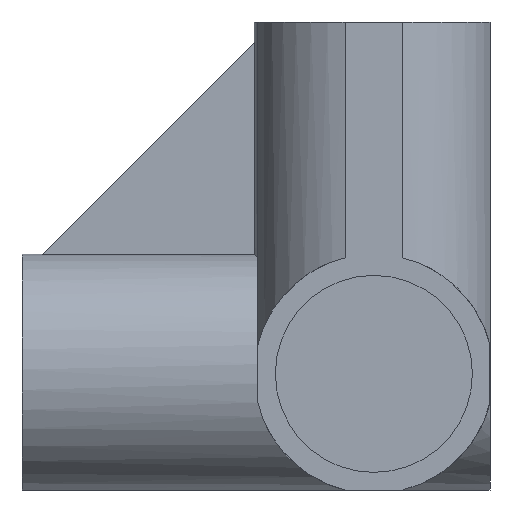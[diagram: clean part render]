
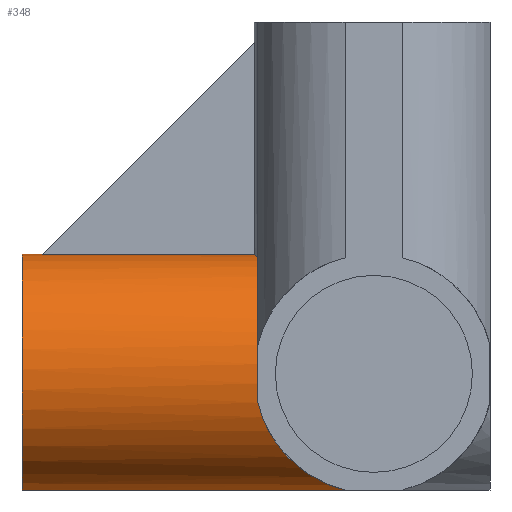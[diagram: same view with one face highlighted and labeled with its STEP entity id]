
A CAD part, left-side view. The second image highlights one B-rep face of the part: STEP entity #348.
In plain terms, the highlighted cylindrical face has radius 17 mm (diameter 34 mm), a partial arc.
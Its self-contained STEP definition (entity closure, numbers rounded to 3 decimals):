
#10 = ORIENTED_EDGE ( 'NONE', *, *, #878, .T. ) ;
#30 = ORIENTED_EDGE ( 'NONE', *, *, #983, .F. ) ;
#31 = EDGE_CURVE ( 'NONE', #1031, #334, #337, .T. ) ;
#52 = CARTESIAN_POINT ( 'NONE',  ( -16.5, 16.5, 4.093 ) ) ;
#62 = ORIENTED_EDGE ( 'NONE', *, *, #358, .T. ) ;
#92 = VERTEX_POINT ( 'NONE', #316 ) ;
#136 = CARTESIAN_POINT ( 'NONE',  ( 0., 50., 0. ) ) ;
#153 = CARTESIAN_POINT ( 'NONE',  ( -4.093, -16.5, -16.5 ) ) ;
#163 = CARTESIAN_POINT ( 'NONE',  ( -1.5, 47.066, 16.934 ) ) ;
#166 = CARTESIAN_POINT ( 'NONE',  ( 0., -16.5, 0. ) ) ;
#176 = EDGE_CURVE ( 'NONE', #1288, #690, #993, .T. ) ;
#216 = EDGE_CURVE ( 'NONE', #690, #300, #1278, .T. ) ;
#258 = CARTESIAN_POINT ( 'NONE',  ( -14.221, 14.221, 9.821 ) ) ;
#275 = CARTESIAN_POINT ( 'NONE',  ( -1.5, 47.066, 16.934 ) ) ;
#290 = CARTESIAN_POINT ( 'NONE',  ( -15.751, 15.751, 7.112 ) ) ;
#300 = VERTEX_POINT ( 'NONE', #828 ) ;
#304 = EDGE_CURVE ( 'NONE', #92, #334, #1165, .T. ) ;
#316 = CARTESIAN_POINT ( 'NONE',  ( -12.021, 12.021, 12.021 ) ) ;
#330 = CIRCLE ( 'NONE', #418, 17. ) ;
#334 = VERTEX_POINT ( 'NONE', #403 ) ;
#337 = LINE ( 'NONE', #1071, #391 ) ;
#338 = CARTESIAN_POINT ( 'NONE',  ( -16.5, 16.5, 4.093 ) ) ;
#348 = ADVANCED_FACE ( 'NONE', ( #1115 ), #820, .T. ) ;
#349 = VECTOR ( 'NONE', #1313, 1000. ) ;
#358 = EDGE_CURVE ( 'NONE', #1031, #1306, #748, .T. ) ;
#391 = VECTOR ( 'NONE', #653, 1000. ) ;
#399 = ORIENTED_EDGE ( 'NONE', *, *, #1144, .F. ) ;
#403 = CARTESIAN_POINT ( 'NONE',  ( -1.5, 16.934, 16.934 ) ) ;
#418 = AXIS2_PLACEMENT_3D ( 'NONE', #1000, #894, #478 ) ;
#421 = ORIENTED_EDGE ( 'NONE', *, *, #216, .F. ) ;
#433 = CARTESIAN_POINT ( 'NONE',  ( -16.5, 16.5, -4.093 ) ) ;
#464 = DIRECTION ( 'NONE',  ( 0., 1., 0. ) ) ;
#478 = DIRECTION ( 'NONE',  ( 0., 0., 1. ) ) ;
#491 = CARTESIAN_POINT ( 'NONE',  ( -0.501, 47., 17. ) ) ;
#500 = CARTESIAN_POINT ( 'NONE',  ( -4.093, 50., -16.5 ) ) ;
#503 = DIRECTION ( 'NONE',  ( 0., 1., 0. ) ) ;
#579 = DIRECTION ( 'NONE',  ( 0., 0., 1. ) ) ;
#647 = CARTESIAN_POINT ( 'NONE',  ( -14.943, 14.943, -10.37 ) ) ;
#653 = DIRECTION ( 'NONE',  ( 0., -1., 0. ) ) ;
#690 = VERTEX_POINT ( 'NONE', #500 ) ;
#695 = CARTESIAN_POINT ( 'NONE',  ( -5.516, 16.578, 16.578 ) ) ;
#708 = CARTESIAN_POINT ( 'NONE',  ( -12.021, 12.021, 12.021 ) ) ;
#748 =( BOUNDED_CURVE ( )  B_SPLINE_CURVE ( 3, ( #275, #912, #491, #906 ),
 .UNSPECIFIED., .F., .T. ) 
 B_SPLINE_CURVE_WITH_KNOTS ( ( 4, 4 ),
 ( 3.053, 3.142 ),
 .UNSPECIFIED. ) 
 CURVE ( )  GEOMETRIC_REPRESENTATION_ITEM ( )  RATIONAL_B_SPLINE_CURVE ( ( 1., 0.999, 0.999, 1. ) ) 
 REPRESENTATION_ITEM ( '' )  );
#782 = EDGE_LOOP ( 'NONE', ( #62, #10, #421, #994, #399, #1369, #30, #982, #1227 ) ) ;
#817 = CARTESIAN_POINT ( 'NONE',  ( -12.021, 12.021, 12.021 ) ) ;
#820 = CYLINDRICAL_SURFACE ( 'NONE', #1328, 17. ) ;
#828 = CARTESIAN_POINT ( 'NONE',  ( 0., 50., 17. ) ) ;
#847 = VERTEX_POINT ( 'NONE', #1376 ) ;
#860 = AXIS2_PLACEMENT_3D ( 'NONE', #136, #464, #893 ) ;
#878 = EDGE_CURVE ( 'NONE', #1306, #300, #1308, .T. ) ;
#892 =( BOUNDED_CURVE ( )  B_SPLINE_CURVE ( 3, ( #433, #647, #931, #1171 ),
 .UNSPECIFIED., .F., .T. ) 
 B_SPLINE_CURVE_WITH_KNOTS ( ( 4, 4 ),
 ( 0.243, 1.328 ),
 .UNSPECIFIED. ) 
 CURVE ( )  GEOMETRIC_REPRESENTATION_ITEM ( )  RATIONAL_B_SPLINE_CURVE ( ( 1., 0.904, 0.904, 1. ) ) 
 REPRESENTATION_ITEM ( '' )  );
#893 = DIRECTION ( 'NONE',  ( 0., 0., 1. ) ) ;
#894 = DIRECTION ( 'NONE',  ( 0., -1., 0. ) ) ;
#906 = CARTESIAN_POINT ( 'NONE',  ( 0., 47., 17. ) ) ;
#912 = CARTESIAN_POINT ( 'NONE',  ( -1.001, 47.022, 16.978 ) ) ;
#917 = CARTESIAN_POINT ( 'NONE',  ( -9.17, 14.872, 14.872 ) ) ;
#931 = CARTESIAN_POINT ( 'NONE',  ( -10.37, 10.37, -14.943 ) ) ;
#982 = ORIENTED_EDGE ( 'NONE', *, *, #304, .T. ) ;
#983 = EDGE_CURVE ( 'NONE', #92, #1187, #1220, .T. ) ;
#993 = LINE ( 'NONE', #153, #349 ) ;
#994 = ORIENTED_EDGE ( 'NONE', *, *, #176, .F. ) ;
#996 = DIRECTION ( 'NONE',  ( 0., 1., 0. ) ) ;
#1000 = CARTESIAN_POINT ( 'NONE',  ( 0., 16.5, 0. ) ) ;
#1031 = VERTEX_POINT ( 'NONE', #163 ) ;
#1060 = VECTOR ( 'NONE', #996, 1000. ) ;
#1071 = CARTESIAN_POINT ( 'NONE',  ( -1.5, -16.5, 16.934 ) ) ;
#1115 = FACE_OUTER_BOUND ( 'NONE', #782, .T. ) ;
#1144 = EDGE_CURVE ( 'NONE', #847, #1288, #892, .T. ) ;
#1165 =( BOUNDED_CURVE ( )  B_SPLINE_CURVE ( 3, ( #708, #917, #695, #1343 ),
 .UNSPECIFIED., .F., .T. ) 
 B_SPLINE_CURVE_WITH_KNOTS ( ( 4, 4 ),
 ( 5.498, 6.195 ),
 .UNSPECIFIED. ) 
 CURVE ( )  GEOMETRIC_REPRESENTATION_ITEM ( )  RATIONAL_B_SPLINE_CURVE ( ( 1., 0.96, 0.96, 1. ) ) 
 REPRESENTATION_ITEM ( '' )  );
#1171 = CARTESIAN_POINT ( 'NONE',  ( -4.093, 4.093, -16.5 ) ) ;
#1187 = VERTEX_POINT ( 'NONE', #338 ) ;
#1220 =( BOUNDED_CURVE ( )  B_SPLINE_CURVE ( 3, ( #817, #258, #290, #52 ),
 .UNSPECIFIED., .F., .T. ) 
 B_SPLINE_CURVE_WITH_KNOTS ( ( 4, 4 ),
 ( 5.498, 6.04 ),
 .UNSPECIFIED. ) 
 CURVE ( )  GEOMETRIC_REPRESENTATION_ITEM ( )  RATIONAL_B_SPLINE_CURVE ( ( 1., 0.976, 0.976, 1. ) ) 
 REPRESENTATION_ITEM ( '' )  );
#1227 = ORIENTED_EDGE ( 'NONE', *, *, #31, .F. ) ;
#1231 = EDGE_CURVE ( 'NONE', #1187, #847, #330, .T. ) ;
#1278 = CIRCLE ( 'NONE', #860, 17. ) ;
#1288 = VERTEX_POINT ( 'NONE', #1319 ) ;
#1306 = VERTEX_POINT ( 'NONE', #1314 ) ;
#1308 = LINE ( 'NONE', #1316, #1060 ) ;
#1313 = DIRECTION ( 'NONE',  ( 0., 1., 0. ) ) ;
#1314 = CARTESIAN_POINT ( 'NONE',  ( 0., 47., 17. ) ) ;
#1316 = CARTESIAN_POINT ( 'NONE',  ( 0., -16.5, 17. ) ) ;
#1319 = CARTESIAN_POINT ( 'NONE',  ( -4.093, 4.093, -16.5 ) ) ;
#1328 = AXIS2_PLACEMENT_3D ( 'NONE', #166, #503, #579 ) ;
#1343 = CARTESIAN_POINT ( 'NONE',  ( -1.5, 16.934, 16.934 ) ) ;
#1369 = ORIENTED_EDGE ( 'NONE', *, *, #1231, .F. ) ;
#1376 = CARTESIAN_POINT ( 'NONE',  ( -16.5, 16.5, -4.093 ) ) ;
